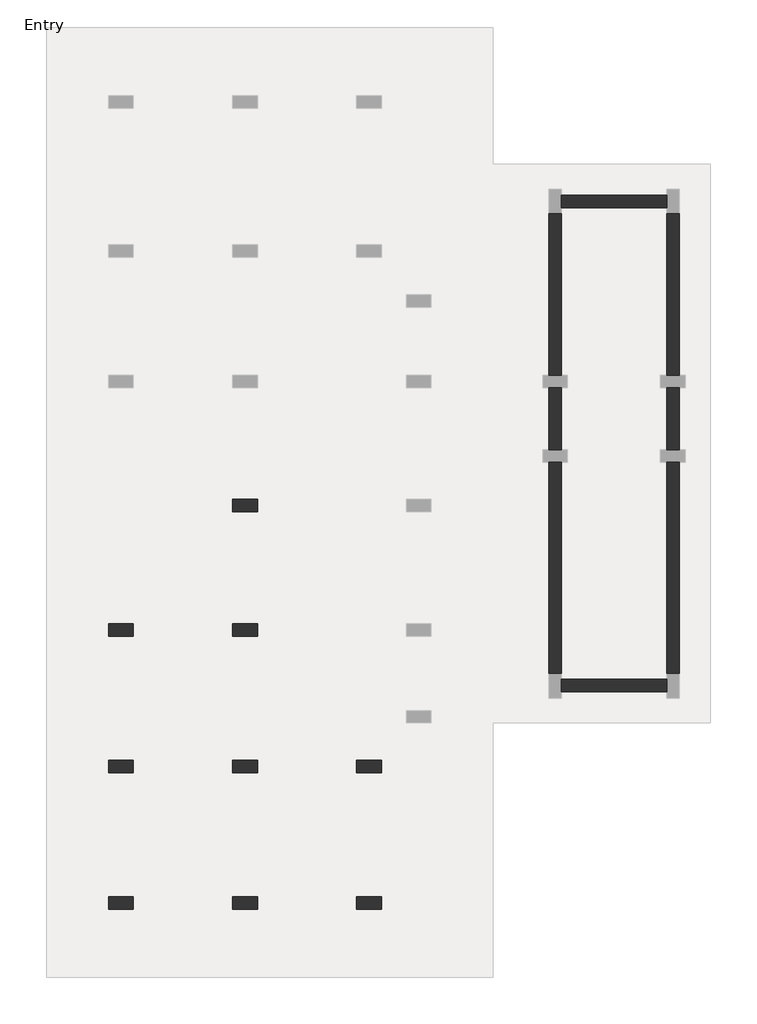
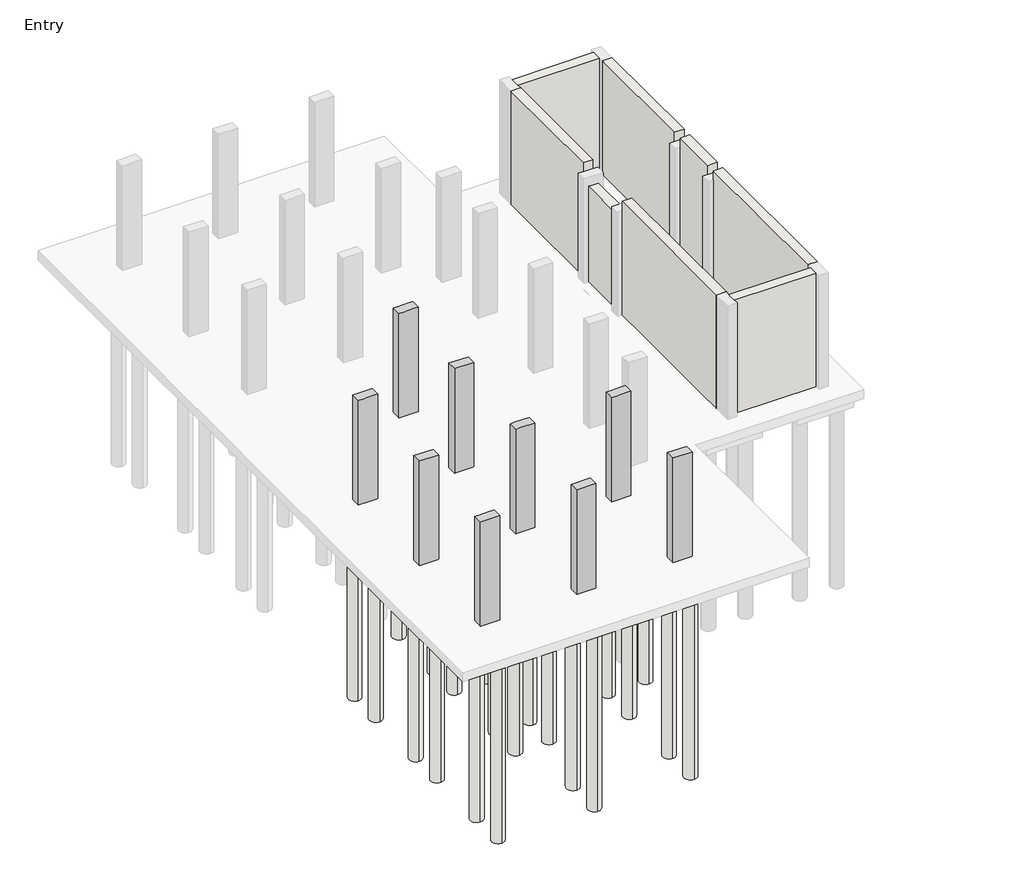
# One storey, part 1 of 3: 31 slabs, 9 columns, 8 walls.
"""IFC4 building model written with IfcOpenShell, lengths in millimetres."""

import ifcopenshell
import ifcopenshell.guid

model = None  # the IFC model being written
_history = None  # IfcOwnerHistory: only IFC2X3 demands one
_inside = {}  # id of a spatial element -> (the spatial element, [elements in it])
_under = {}  # id of a project, library or spatial element -> (it, [spatial elements below it])
_declared = {}  # id of a project -> (the project, [libraries it declares])
_typed = {}  # id of a type object -> (the type object, [elements of that type])
_made_of = {}  # id of a material, layer set ... -> (it, [elements and type objects made of it])


def new_model(schema):
    """Start an empty IFC model of exactly this schema.

    Asked for "IFC4X3", IfcOpenShell would pick the latest addendum, in which some entities
    have other attributes; the version numbers below select the first issue.
    IFC2X3 requires an IfcOwnerHistory on every rooted entity: one is made here for all.
    """
    global model, _history
    if schema == "IFC4X3":
        model = ifcopenshell.file(schema_version=(4, 3, 0, 0))
    else:
        model = ifcopenshell.file(schema=schema)
    _inside.clear()
    _under.clear()
    _declared.clear()
    _typed.clear()
    _made_of.clear()
    _history = None
    if model.schema == "IFC2X3":
        org = make("IfcOrganization", Name="unknown")
        user = make(
            "IfcPersonAndOrganization",
            ThePerson=make("IfcPerson", FamilyName="unknown"),
            TheOrganization=org,
        )
        app = make(
            "IfcApplication",
            ApplicationDeveloper=org,
            Version="unknown",
            ApplicationFullName="unknown",
            ApplicationIdentifier="unknown",
        )
        _history = make(
            "IfcOwnerHistory",
            OwningUser=user,
            OwningApplication=app,
            ChangeAction="ADDED",
            CreationDate=0,
        )
    return model


def make(cls, **values):
    """One entity of the class cls with the attributes given. An attribute that is None is left unset."""
    return model.create_entity(
        cls, **{name: value for name, value in values.items() if value is not None}
    )


def rooted(cls, **values):
    """An entity with a GlobalId (a new one), such as an element, a storey or a relation."""
    return make(cls, GlobalId=ifcopenshell.guid.new(), OwnerHistory=_history, **values)


def si_unit(unit_type, name, prefix=None):
    """IfcSIUnit, for example si_unit("LENGTHUNIT", "METRE", prefix="MILLI")."""
    return make("IfcSIUnit", UnitType=unit_type, Prefix=prefix, Name=name)


def assignment(units):
    """IfcUnitAssignment: the units of a project."""
    return None if units is None else make("IfcUnitAssignment", Units=units)


def point(xyz):
    """IfcCartesianPoint."""
    return None if xyz is None else make("IfcCartesianPoint", Coordinates=xyz)


def direction(xyz):
    """IfcDirection."""
    return None if xyz is None else make("IfcDirection", DirectionRatios=xyz)


def frame(location, z_axis=None, x_axis=None):
    """IfcAxis2Placement3D, a coordinate frame: its origin and axes. An axis left out is left unset."""
    return make(
        "IfcAxis2Placement3D",
        Location=point(location),
        Axis=direction(z_axis),
        RefDirection=direction(x_axis),
    )


def frame_2d(location, x_axis=None):
    """IfcAxis2Placement2D, a coordinate frame in the plane: its origin and x axis."""
    return make(
        "IfcAxis2Placement2D", Location=point(location), RefDirection=direction(x_axis)
    )


def origin():
    """The frame at (0, 0, 0) with its axes left unset."""
    return frame((0.0, 0.0, 0.0))


def origin_with_axes():
    """The frame at (0, 0, 0) with the z axis (0, 0, 1) and the x axis (1, 0, 0) written out."""
    return frame((0.0, 0.0, 0.0), z_axis=(0.0, 0.0, 1.0), x_axis=(1.0, 0.0, 0.0))


def place(relative_to, where):
    """IfcLocalPlacement: puts the frame where relative to a parent placement (None: the world)."""
    return make(
        "IfcLocalPlacement", PlacementRelTo=relative_to, RelativePlacement=where
    )


def context(
    kind, dimensions, precision=None, world=None, true_north=None, identifier=None
):
    """IfcGeometricRepresentationContext, for example the 3D "Model" context."""
    return make(
        "IfcGeometricRepresentationContext",
        ContextIdentifier=identifier,
        ContextType=kind,
        CoordinateSpaceDimension=dimensions,
        Precision=precision,
        WorldCoordinateSystem=world,
        TrueNorth=true_north,
    )


def project(units=None, contexts=None):
    """IfcProject with its units and contexts."""
    return rooted(
        "IfcProject",
        Name="project",
        RepresentationContexts=contexts,
        UnitsInContext=assignment(units),
    )


def spatial(cls, under=None, at=None, **own):
    """A site, building, storey or space (cls), placed at a placement, below another one or the project."""
    s = rooted(cls, ObjectPlacement=at, **own)
    if under is not None:
        _under.setdefault(under.id(), (under, []))[1].append(s)
    return s


def polyline(points):
    """IfcPolyline through the points."""
    return make("IfcPolyline", Points=[point(p) for p in points])


def circle_curve(where, radius):
    """IfcCircle in the frame where."""
    return make("IfcCircle", Position=where, Radius=radius)


def trimmed(basis, trim1, trim2, sense, master):
    """IfcTrimmedCurve: the piece of a basis curve between two trims."""
    return make(
        "IfcTrimmedCurve",
        BasisCurve=basis,
        Trim1=trim1,
        Trim2=trim2,
        SenseAgreement=sense,
        MasterRepresentation=master,
    )


def segment(curve, same_sense, transition):
    """IfcCompositeCurveSegment."""
    return make(
        "IfcCompositeCurveSegment",
        Transition=transition,
        SameSense=same_sense,
        ParentCurve=curve,
    )


def composite_curve(segments, self_intersect=None):
    """IfcCompositeCurve: segments joined end to end."""
    return make("IfcCompositeCurve", Segments=segments, SelfIntersect=self_intersect)


def outline(outer, holes=None, kind="AREA"):
    """IfcArbitraryClosedProfileDef: a profile drawn as a closed curve; with holes, ...WithVoids."""
    if holes is None:
        return make("IfcArbitraryClosedProfileDef", ProfileType=kind, OuterCurve=outer)
    return make(
        "IfcArbitraryProfileDefWithVoids",
        ProfileType=kind,
        OuterCurve=outer,
        InnerCurves=holes,
    )


def extrude(swept, where, along, depth):
    """IfcExtrudedAreaSolid: the profile swept, set in the frame where, extruded along a direction by depth."""
    return make(
        "IfcExtrudedAreaSolid",
        SweptArea=swept,
        Position=where,
        ExtrudedDirection=direction(along),
        Depth=depth,
    )


def faces_of(points, faces, orient=None, outer=None):
    """IfcFace entities. A face is a list of loops; a loop is a list of indices into points, from 0.

    orient and outer hold one flag for each loop. By default every Orientation is true, the
    first loop of a face is its IfcFaceOuterBound and the others are IfcFaceBound.
    """
    made = []
    for i, loops in enumerate(faces):
        bounds = []
        for j, loop in enumerate(loops):
            is_outer = j == 0 if outer is None else outer[i][j]
            bounds.append(
                make(
                    "IfcFaceOuterBound" if is_outer else "IfcFaceBound",
                    Bound=make("IfcPolyLoop", Polygon=[points[k] for k in loop]),
                    Orientation=True if orient is None else orient[i][j],
                )
            )
        made.append(make("IfcFace", Bounds=bounds))
    return made


def faceted_brep(points, faces, orient=None, outer=None, voids=None):
    """IfcFacetedBrep: a solid bounded by flat faces; with voids (closed shells), ...WithVoids."""
    shared = [point(p) for p in points]
    hull = make("IfcClosedShell", CfsFaces=faces_of(shared, faces, orient, outer))
    if voids is None:
        return make("IfcFacetedBrep", Outer=hull)
    return make(
        "IfcFacetedBrepWithVoids",
        Outer=hull,
        Voids=[
            make(cls, CfsFaces=faces_of(shared, fs, o, b)) for cls, fs, o, b in voids
        ],
    )


def shape(context_of_items, identifier, shape_type, items):
    """IfcShapeRepresentation: the items that make up one representation, for example the "Body"."""
    return make(
        "IfcShapeRepresentation",
        ContextOfItems=context_of_items,
        RepresentationIdentifier=identifier,
        RepresentationType=shape_type,
        Items=items,
    )


def made_of(thing, what):
    """Note that an element or type object is made of a material, layer set ...; save() writes the relation."""
    if what is not None:
        _made_of.setdefault(what.id(), (what, []))[1].append(thing)
    return thing


def element(
    cls,
    number,
    at=None,
    inside=None,
    cuts=None,
    type_object=None,
    material=None,
    context=None,
    identifier="Body",
    shape_type=None,
    held_by="IfcProductDefinitionShape",
    body=None,
    shapes=None,
    **own,
):
    """One element of the class cls, such as IfcWall. Its Tag is "e" and its number.

    at: its placement. inside: the storey or other place that contains it. cuts: it is an
    opening in that element (IfcRelVoidsElement). A single representation is given by context,
    identifier, shape_type and body (its items); several are given by shapes. held_by: the class
    of the entity that holds the representations. save() writes the other relations.
    """
    e = rooted(cls, Tag="e%d" % number, ObjectPlacement=at, **own)
    if body is not None:
        shapes = [shape(context, identifier, shape_type, body)]
    if shapes is not None:
        e.Representation = make(held_by, Representations=shapes)
    if inside is not None:
        _inside.setdefault(inside.id(), (inside, []))[1].append(e)
    if cuts is not None:
        rooted(
            "IfcRelVoidsElement", RelatingBuildingElement=cuts, RelatedOpeningElement=e
        )
    if type_object is not None:
        _typed.setdefault(type_object.id(), (type_object, []))[1].append(e)
    return made_of(e, material)


def aggregate(whole, parts):
    """IfcRelAggregates: a whole, such as a stair, and the parts it consists of."""
    return rooted("IfcRelAggregates", RelatingObject=whole, RelatedObjects=parts)


def save(model, path):
    """Write the relations noted so far, then the file.

    IfcRelAggregates (storeys below a building ...), IfcRelContainedInSpatialStructure (elements
    in a storey), IfcRelDefinesByType, IfcRelAssociatesMaterial and IfcRelDeclares: one each for
    every whole, place, type object, material and project.
    """
    for whole, parts in _under.values():
        aggregate(whole, parts)
    for where, things in _inside.values():
        rooted(
            "IfcRelContainedInSpatialStructure",
            RelatedElements=things,
            RelatingStructure=where,
        )
    for kind, things in _typed.values():
        rooted("IfcRelDefinesByType", RelatedObjects=things, RelatingType=kind)
    for what, things in _made_of.values():
        rooted("IfcRelAssociatesMaterial", RelatedObjects=things, RelatingMaterial=what)
    for by, libraries in _declared.values():
        rooted("IfcRelDeclares", RelatingContext=by, RelatedDefinitions=libraries)
    model.write(path)


model = new_model("IFC4")

# Units and contexts
model_context = context("Model", 3, world=origin())
ifc_project = project(units=[si_unit("LENGTHUNIT", "METRE", prefix="MILLI")], contexts=[model_context])

# Site, building, storey
site = spatial("IfcSite", under=ifc_project)
building = spatial("IfcBuilding", under=site)
storey = spatial("IfcBuildingStorey", under=building, Name="Entry", Elevation=0.0)

# Columns
placement = place(None, origin())
element("IfcColumn", 1, ObjectType="Concrete-Rectangular-Column : 12 x 24", at=placement, inside=storey, context=model_context, shape_type="Brep", body=[
    faceted_brep([(-10423.1073204, 13863.0572372, 0.0), (-9813.5073204, 13863.0572372, 0.0), (-9813.5073204, 13558.2572372, 0.0), (-10423.1073204, 13558.2572372, 0.0), (-10423.1073204, 13863.0572372, 3505.2), (-10270.7073204, 13863.0572372, 3505.2), (-9965.9073204, 13863.0572372, 3505.2), (-9813.5073204, 13863.0572372, 3505.2), (-9813.5073204, 13863.0572372, 2895.6), (-9813.5073204, 13558.2572372, 3505.2), (-9813.5073204, 13558.2572372, 2895.6), (-9965.9073204, 13558.2572372, 3505.2), (-10270.7073204, 13558.2572372, 3505.2), (-10423.1073204, 13558.2572372, 3505.2)], [[[0, 1, 2, 3]], [[4, 5, 6, 7, 8, 1, 0]], [[7, 9, 10, 2, 1, 8]], [[9, 11, 12, 13, 3, 2, 10]], [[13, 4, 0, 3]], [[4, 13, 12, 11, 9, 7, 6, 5]]]),
])
element("IfcColumn", 2, ObjectType="Concrete-Rectangular-Column : 12 x 24", at=placement, inside=storey, context=model_context, shape_type="Brep", body=[
    faceted_brep([(-13471.1073204, 10815.0572372, 0.0), (-12861.5073204, 10815.0572372, 0.0), (-12861.5073204, 10510.2572372, 0.0), (-13471.1073204, 10510.2572372, 0.0), (-13471.1073204, 10815.0572372, 3505.2), (-12861.5073204, 10815.0572372, 3505.2), (-12861.5073204, 10815.0572372, 2895.6), (-12861.5073204, 10510.2572372, 3505.2), (-12861.5073204, 10510.2572372, 2895.6), (-13013.9073204, 10510.2572372, 3505.2), (-13318.7073204, 10510.2572372, 3505.2), (-13471.1073204, 10510.2572372, 3505.2)], [[[0, 1, 2, 3]], [[4, 5, 6, 1, 0]], [[5, 7, 8, 2, 1, 6]], [[7, 9, 10, 11, 3, 2, 8]], [[11, 4, 0, 3]], [[4, 11, 10, 9, 7, 5]]]),
])
element("IfcColumn", 3, ObjectType="Concrete-Rectangular-Column : 12 x 24", at=placement, inside=storey, context=model_context, shape_type="Brep", body=[
    faceted_brep([(-10423.1073204, 10815.0572372, 0.0), (-9813.5073204, 10815.0572372, 0.0), (-9813.5073204, 10510.2572372, 0.0), (-10423.1073204, 10510.2572372, 0.0), (-10423.1073204, 10815.0572372, 3505.2), (-10270.7073204, 10815.0572372, 3505.2), (-9965.9073204, 10815.0572372, 3505.2), (-9813.5073204, 10815.0572372, 3505.2), (-9813.5073204, 10815.0572372, 2895.6), (-10423.1073204, 10815.0572372, 2895.6), (-9813.5073204, 10510.2572372, 3505.2), (-9813.5073204, 10510.2572372, 2895.6), (-9965.9073204, 10510.2572372, 3505.2), (-10270.7073204, 10510.2572372, 3505.2), (-10423.1073204, 10510.2572372, 3505.2), (-10423.1073204, 10510.2572372, 2895.6)], [[[0, 1, 2, 3]], [[4, 5, 6, 7, 8, 1, 0, 9]], [[7, 10, 11, 2, 1, 8]], [[10, 12, 13, 14, 15, 3, 2, 11]], [[14, 4, 9, 0, 3, 15]], [[4, 14, 13, 12, 10, 7, 6, 5]]]),
])
element("IfcColumn", 4, ObjectType="Concrete-Rectangular-Column : 12 x 24", at=placement, inside=storey, context=model_context, shape_type="Brep", body=[
    faceted_brep([(-7375.8500241, 7462.2572372, 0.0), (-6766.2500241, 7462.2572372, 0.0), (-6766.2500241, 7157.4572372, 0.0), (-7375.8500241, 7157.4572372, 0.0), (-7375.8500241, 7462.2572372, 3505.2), (-7223.4500241, 7462.2572372, 3505.2), (-6918.6500241, 7462.2572372, 3505.2), (-6766.2500241, 7462.2572372, 3505.2), (-7375.8500241, 7462.2572372, 2895.6), (-6766.2500241, 7157.4572372, 3505.2), (-6918.6500241, 7157.4572372, 3505.2), (-7223.4500241, 7157.4572372, 3505.2), (-7375.8500241, 7157.4572372, 3505.2), (-7375.8500241, 7157.4572372, 2895.6)], [[[0, 1, 2, 3]], [[4, 5, 6, 7, 1, 0, 8]], [[7, 9, 2, 1]], [[9, 10, 11, 12, 13, 3, 2]], [[12, 4, 8, 0, 3, 13]], [[4, 12, 11, 10, 9, 7, 6, 5]]]),
])
element("IfcColumn", 5, ObjectType="Concrete-Rectangular-Column : 12 x 24", at=placement, inside=storey, context=model_context, shape_type="Brep", body=[
    faceted_brep([(-10423.1073204, 7462.2572372, 0.0), (-9813.5073204, 7462.2572372, 0.0), (-9813.5073204, 7157.4572372, 0.0), (-10423.1073204, 7157.4572372, 0.0), (-10423.1073204, 7462.2572372, 3505.2), (-10270.7073204, 7462.2572372, 3505.2), (-9965.9073204, 7462.2572372, 3505.2), (-9813.5073204, 7462.2572372, 3505.2), (-9813.5073204, 7462.2572372, 2895.6), (-10423.1073204, 7462.2572372, 2895.6), (-9813.5073204, 7157.4572372, 3505.2), (-9813.5073204, 7157.4572372, 2895.6), (-9965.9073204, 7157.4572372, 3505.2), (-10270.7073204, 7157.4572372, 3505.2), (-10423.1073204, 7157.4572372, 3505.2), (-10423.1073204, 7157.4572372, 2895.6)], [[[0, 1, 2, 3]], [[4, 5, 6, 7, 8, 1, 0, 9]], [[7, 10, 11, 2, 1, 8]], [[10, 12, 13, 14, 15, 3, 2, 11]], [[14, 4, 9, 0, 3, 15]], [[4, 14, 13, 12, 10, 7, 6, 5]]]),
])
element("IfcColumn", 6, ObjectType="Concrete-Rectangular-Column : 12 x 24", at=placement, inside=storey, context=model_context, shape_type="Brep", body=[
    faceted_brep([(-13471.1073204, 7462.2572372, 0.0), (-12861.5073204, 7462.2572372, 0.0), (-12861.5073204, 7157.4572372, 0.0), (-13471.1073204, 7157.4572372, 0.0), (-13471.1073204, 7462.2572372, 3505.2), (-13318.7073204, 7462.2572372, 3505.2), (-13013.9073204, 7462.2572372, 3505.2), (-12861.5073204, 7462.2572372, 3505.2), (-12861.5073204, 7462.2572372, 2895.6), (-12861.5073204, 7157.4572372, 3505.2), (-12861.5073204, 7157.4572372, 2895.6), (-13013.9073204, 7157.4572372, 3505.2), (-13318.7073204, 7157.4572372, 3505.2), (-13471.1073204, 7157.4572372, 3505.2)], [[[0, 1, 2, 3]], [[4, 5, 6, 7, 8, 1, 0]], [[7, 9, 10, 2, 1, 8]], [[9, 11, 12, 13, 3, 2, 10]], [[13, 4, 0, 3]], [[4, 13, 12, 11, 9, 7, 6, 5]]]),
])
element("IfcColumn", 7, ObjectType="Concrete-Rectangular-Column : 12 x 24", at=placement, inside=storey, context=model_context, shape_type="Brep", body=[
    faceted_brep([(-13471.1073204, 4109.4572372, 0.0), (-12861.5073204, 4109.4572372, 0.0), (-12861.5073204, 3804.6572372, 0.0), (-13471.1073204, 3804.6572372, 0.0), (-13471.1073204, 4109.4572372, 3505.2), (-13318.7073204, 4109.4572372, 3505.2), (-13013.9073204, 4109.4572372, 3505.2), (-12861.5073204, 4109.4572372, 3505.2), (-12861.5073204, 4109.4572372, 2895.6), (-12861.5073204, 3804.6572372, 3505.2), (-12861.5073204, 3804.6572372, 2895.6), (-13471.1073204, 3804.6572372, 3505.2)], [[[0, 1, 2, 3]], [[4, 5, 6, 7, 8, 1, 0]], [[7, 9, 10, 2, 1, 8]], [[9, 11, 3, 2, 10]], [[11, 4, 0, 3]], [[4, 11, 9, 7, 6, 5]]]),
])
element("IfcColumn", 8, ObjectType="Concrete-Rectangular-Column : 12 x 24", at=placement, inside=storey, context=model_context, shape_type="Brep", body=[
    faceted_brep([(-10423.1073204, 4109.4572372, 0.0), (-9813.5073204, 4109.4572372, 0.0), (-9813.5073204, 3804.6572372, 0.0), (-10423.1073204, 3804.6572372, 0.0), (-10423.1073204, 4109.4572372, 3505.2), (-10270.7073204, 4109.4572372, 3505.2), (-9965.9073204, 4109.4572372, 3505.2), (-9813.5073204, 4109.4572372, 3505.2), (-9813.5073204, 4109.4572372, 2895.6), (-10423.1073204, 4109.4572372, 2895.6), (-9813.5073204, 3804.6572372, 3505.2), (-9813.5073204, 3804.6572372, 2895.6), (-10423.1073204, 3804.6572372, 3505.2), (-10423.1073204, 3804.6572372, 2895.6)], [[[0, 1, 2, 3]], [[4, 5, 6, 7, 8, 1, 0, 9]], [[7, 10, 11, 2, 1, 8]], [[10, 12, 13, 3, 2, 11]], [[12, 4, 9, 0, 3, 13]], [[4, 12, 10, 7, 6, 5]]]),
])
element("IfcColumn", 9, ObjectType="Concrete-Rectangular-Column : 12 x 24", at=placement, inside=storey, context=model_context, shape_type="Brep", body=[
    faceted_brep([(-7375.1073204, 4109.4572372, 0.0), (-6765.5073204, 4109.4572372, 0.0), (-6765.5073204, 3804.6572372, 0.0), (-7375.1073204, 3804.6572372, 0.0), (-7375.1073204, 4109.4572372, 3505.2), (-7223.4500241, 4109.4572372, 3505.2), (-6918.6500241, 4109.4572372, 3505.2), (-6765.5073204, 4109.4572372, 3505.2), (-7375.1073204, 4109.4572372, 2895.6), (-6765.5073204, 3804.6572372, 3505.2), (-7375.1073204, 3804.6572372, 3505.2), (-7375.1073204, 3804.6572372, 2895.6)], [[[0, 1, 2, 3]], [[4, 5, 6, 7, 1, 0, 8]], [[7, 9, 2, 1]], [[9, 10, 11, 3, 2]], [[10, 4, 8, 0, 3, 11]], [[4, 10, 9, 7, 6, 5]]]),
])

# Slabs
element("IfcSlab", 10, ObjectType="Pile Cap-2 Pile : 31\"x61\"x35\"", at=placement, inside=storey, context=model_context, shape_type="SweptSolid", body=[
    extrude(outline(polyline([(-13572.7073204, 11551.6572372), (-12759.9073204, 11551.6572372), (-12759.9073204, 9773.6572372), (-13572.7073204, 9773.6572372), (-13572.7073204, 11551.6572372)])), frame((0.0, 0.0, -889.0), z_axis=(0.0, 0.0, 1.0), x_axis=(1.0, 0.0, 0.0)), (0.0, 0.0, 1.0), 584.2),
])
element("IfcSlab", 11, ObjectType="Pile Cap-2 Pile : 31\"x61\"x35\"", at=placement, inside=storey, context=model_context, shape_type="SweptSolid", body=[
    extrude(outline(polyline([(-13572.7073204, 8198.8572372), (-12759.9073204, 8198.8572372), (-12759.9073204, 6420.8572372), (-13572.7073204, 6420.8572372), (-13572.7073204, 8198.8572372)])), frame((0.0, 0.0, -889.0), z_axis=(0.0, 0.0, 1.0), x_axis=(1.0, 0.0, 0.0)), (0.0, 0.0, 1.0), 584.2),
])
element("IfcSlab", 12, ObjectType="Pile Cap-2 Pile : 31\"x61\"x35\"", at=placement, inside=storey, context=model_context, shape_type="SweptSolid", body=[
    extrude(outline(polyline([(-13572.7073204, 4846.0572372), (-12759.9073204, 4846.0572372), (-12759.9073204, 3068.0572372), (-13572.7073204, 3068.0572372), (-13572.7073204, 4846.0572372)])), frame((0.0, 0.0, -889.0), z_axis=(0.0, 0.0, 1.0), x_axis=(1.0, 0.0, 0.0)), (0.0, 0.0, 1.0), 584.2),
])
element("IfcSlab", 13, ObjectType="Pile Cap-2 Pile : 31\"x61\"x35\"", at=placement, inside=storey, context=model_context, shape_type="SweptSolid", body=[
    extrude(outline(polyline([(-10524.7073204, 4846.0572372), (-9711.9073204, 4846.0572372), (-9711.9073204, 3068.0572372), (-10524.7073204, 3068.0572372), (-10524.7073204, 4846.0572372)])), frame((0.0, 0.0, -889.0), z_axis=(0.0, 0.0, 1.0), x_axis=(1.0, 0.0, 0.0)), (0.0, 0.0, 1.0), 584.2),
])
element("IfcSlab", 14, ObjectType="Pile Cap-2 Pile : 31\"x61\"x35\"", at=placement, inside=storey, context=model_context, shape_type="SweptSolid", body=[
    extrude(outline(polyline([(-7476.7073204, 4846.0572372), (-6663.9073204, 4846.0572372), (-6663.9073204, 3068.0572372), (-7476.7073204, 3068.0572372), (-7476.7073204, 4846.0572372)])), frame((0.0, 0.0, -889.0), z_axis=(0.0, 0.0, 1.0), x_axis=(1.0, 0.0, 0.0)), (0.0, 0.0, 1.0), 584.2),
])
element("IfcSlab", 15, ObjectType="Pile Cap-2 Pile : 31\"x61\"x35\"", at=placement, inside=storey, context=model_context, shape_type="SweptSolid", body=[
    extrude(outline(polyline([(-7477.4500241, 8198.8572372), (-6664.6500241, 8198.8572372), (-6664.6500241, 6420.8572372), (-7477.4500241, 6420.8572372), (-7477.4500241, 8198.8572372)])), frame((0.0, 0.0, -889.0), z_axis=(0.0, 0.0, 1.0), x_axis=(1.0, 0.0, 0.0)), (0.0, 0.0, 1.0), 584.2),
])
element("IfcSlab", 16, ObjectType="Pile Cap-4 Pile : 72\"x72\"x35\"", at=placement, inside=storey, context=model_context, shape_type="SweptSolid", body=[
    extrude(outline(polyline([(-11032.7073204, 14625.0572372), (-9203.9073204, 14625.0572372), (-9203.9073204, 12796.2572372), (-11032.7073204, 12796.2572372), (-11032.7073204, 14625.0572372)])), frame((0.0, 0.0, -889.0), z_axis=(0.0, 0.0, 1.0), x_axis=(1.0, 0.0, 0.0)), (0.0, 0.0, 1.0), 584.2),
])
element("IfcSlab", 17, ObjectType="Pile Cap-4 Pile : 72\"x72\"x35\"", at=placement, inside=storey, context=model_context, shape_type="SweptSolid", body=[
    extrude(outline(polyline([(-11032.7073204, 11577.0572372), (-9203.9073204, 11577.0572372), (-9203.9073204, 9748.2572372), (-11032.7073204, 9748.2572372), (-11032.7073204, 11577.0572372)])), frame((0.0, 0.0, -889.0), z_axis=(0.0, 0.0, 1.0), x_axis=(1.0, 0.0, 0.0)), (0.0, 0.0, 1.0), 584.2),
])
element("IfcSlab", 18, ObjectType="Pile Cap-4 Pile : 72\"x72\"x35\"", at=placement, inside=storey, context=model_context, shape_type="SweptSolid", body=[
    extrude(outline(polyline([(-11032.7073204, 8224.2572372), (-9203.9073204, 8224.2572372), (-9203.9073204, 6395.4572372), (-11032.7073204, 6395.4572372), (-11032.7073204, 8224.2572372)])), frame((0.0, 0.0, -889.0), z_axis=(0.0, 0.0, 1.0), x_axis=(1.0, 0.0, 0.0)), (0.0, 0.0, 1.0), 584.2),
])
element("IfcSlab", 19, ObjectType="Pile-Steel Pipe : 16\" Diameter", at=placement, inside=storey, context=model_context, shape_type="SweptSolid", body=[
    extrude(outline(composite_curve([segment(trimmed(circle_curve(frame_2d((-10651.7073204, 13177.2572372)), 203.2), [point((-10651.7073204, 12974.0572372))], [point((-10651.7073204, 13380.4572372))], False, "CARTESIAN"), True, "CONTINUOUS"), segment(trimmed(circle_curve(frame_2d((-10651.7073204, 13177.2572372)), 203.2), [point((-10651.7073204, 13380.4572372))], [point((-10651.7073204, 12974.0572372))], False, "CARTESIAN"), True, "CONTINUOUS")], self_intersect=False)), frame((0.0, 0.0, -6985.0), z_axis=(0.0, 0.0, 1.0), x_axis=(1.0, 0.0, 0.0)), (0.0, 0.0, 1.0), 6096.0),
])
element("IfcSlab", 20, ObjectType="Pile-Steel Pipe : 16\" Diameter", at=placement, inside=storey, context=model_context, shape_type="SweptSolid", body=[
    extrude(outline(composite_curve([segment(trimmed(circle_curve(frame_2d((-10651.7073204, 10129.2572372)), 203.2), [point((-10651.7073204, 9926.0572372))], [point((-10651.7073204, 10332.4572372))], False, "CARTESIAN"), True, "CONTINUOUS"), segment(trimmed(circle_curve(frame_2d((-10651.7073204, 10129.2572372)), 203.2), [point((-10651.7073204, 10332.4572372))], [point((-10651.7073204, 9926.0572372))], False, "CARTESIAN"), True, "CONTINUOUS")], self_intersect=False)), frame((0.0, 0.0, -6985.0), z_axis=(0.0, 0.0, 1.0), x_axis=(1.0, 0.0, 0.0)), (0.0, 0.0, 1.0), 6096.0),
])
element("IfcSlab", 21, ObjectType="Pile-Steel Pipe : 16\" Diameter", at=placement, inside=storey, context=model_context, shape_type="SweptSolid", body=[
    extrude(outline(composite_curve([segment(trimmed(circle_curve(frame_2d((-9584.9073204, 10129.2572372)), 203.2), [point((-9584.9073204, 9926.0572372))], [point((-9584.9073204, 10332.4572372))], False, "CARTESIAN"), True, "CONTINUOUS"), segment(trimmed(circle_curve(frame_2d((-9584.9073204, 10129.2572372)), 203.2), [point((-9584.9073204, 10332.4572372))], [point((-9584.9073204, 9926.0572372))], False, "CARTESIAN"), True, "CONTINUOUS")], self_intersect=False)), frame((0.0, 0.0, -6985.0), z_axis=(0.0, 0.0, 1.0), x_axis=(1.0, 0.0, 0.0)), (0.0, 0.0, 1.0), 6096.0),
])
element("IfcSlab", 22, ObjectType="Pile-Steel Pipe : 16\" Diameter", at=placement, inside=storey, context=model_context, shape_type="SweptSolid", body=[
    extrude(outline(composite_curve([segment(trimmed(circle_curve(frame_2d((-9584.9073204, 11196.0572372)), 203.2), [point((-9584.9073204, 10992.8572372))], [point((-9584.9073204, 11399.2572372))], False, "CARTESIAN"), True, "CONTINUOUS"), segment(trimmed(circle_curve(frame_2d((-9584.9073204, 11196.0572372)), 203.2), [point((-9584.9073204, 11399.2572372))], [point((-9584.9073204, 10992.8572372))], False, "CARTESIAN"), True, "CONTINUOUS")], self_intersect=False)), frame((0.0, 0.0, -6985.0), z_axis=(0.0, 0.0, 1.0), x_axis=(1.0, 0.0, 0.0)), (0.0, 0.0, 1.0), 6096.0),
])
element("IfcSlab", 23, ObjectType="Pile-Steel Pipe : 16\" Diameter", at=placement, inside=storey, context=model_context, shape_type="SweptSolid", body=[
    extrude(outline(composite_curve([segment(trimmed(circle_curve(frame_2d((-10651.7073204, 11196.0572372)), 203.2), [point((-10651.7073204, 10992.8572372))], [point((-10651.7073204, 11399.2572372))], False, "CARTESIAN"), True, "CONTINUOUS"), segment(trimmed(circle_curve(frame_2d((-10651.7073204, 11196.0572372)), 203.2), [point((-10651.7073204, 11399.2572372))], [point((-10651.7073204, 10992.8572372))], False, "CARTESIAN"), True, "CONTINUOUS")], self_intersect=False)), frame((0.0, 0.0, -6985.0), z_axis=(0.0, 0.0, 1.0), x_axis=(1.0, 0.0, 0.0)), (0.0, 0.0, 1.0), 6096.0),
])
element("IfcSlab", 24, ObjectType="Pile-Steel Pipe : 16\" Diameter", at=placement, inside=storey, context=model_context, shape_type="SweptSolid", body=[
    extrude(outline(composite_curve([segment(trimmed(circle_curve(frame_2d((-10651.7073204, 6776.4572372)), 203.2), [point((-10651.7073204, 6573.2572372))], [point((-10651.7073204, 6979.6572372))], False, "CARTESIAN"), True, "CONTINUOUS"), segment(trimmed(circle_curve(frame_2d((-10651.7073204, 6776.4572372)), 203.2), [point((-10651.7073204, 6979.6572372))], [point((-10651.7073204, 6573.2572372))], False, "CARTESIAN"), True, "CONTINUOUS")], self_intersect=False)), frame((0.0, 0.0, -6985.0), z_axis=(0.0, 0.0, 1.0), x_axis=(1.0, 0.0, 0.0)), (0.0, 0.0, 1.0), 6096.0),
])
element("IfcSlab", 25, ObjectType="Pile-Steel Pipe : 16\" Diameter", at=placement, inside=storey, context=model_context, shape_type="SweptSolid", body=[
    extrude(outline(composite_curve([segment(trimmed(circle_curve(frame_2d((-9584.9073204, 6776.4572372)), 203.2), [point((-9584.9073204, 6573.2572372))], [point((-9584.9073204, 6979.6572372))], False, "CARTESIAN"), True, "CONTINUOUS"), segment(trimmed(circle_curve(frame_2d((-9584.9073204, 6776.4572372)), 203.2), [point((-9584.9073204, 6979.6572372))], [point((-9584.9073204, 6573.2572372))], False, "CARTESIAN"), True, "CONTINUOUS")], self_intersect=False)), frame((0.0, 0.0, -6985.0), z_axis=(0.0, 0.0, 1.0), x_axis=(1.0, 0.0, 0.0)), (0.0, 0.0, 1.0), 6096.0),
])
element("IfcSlab", 26, ObjectType="Pile-Steel Pipe : 16\" Diameter", at=placement, inside=storey, context=model_context, shape_type="SweptSolid", body=[
    extrude(outline(composite_curve([segment(trimmed(circle_curve(frame_2d((-9584.9073204, 7843.2572372)), 203.2), [point((-9584.9073204, 7640.0572372))], [point((-9584.9073204, 8046.4572372))], False, "CARTESIAN"), True, "CONTINUOUS"), segment(trimmed(circle_curve(frame_2d((-9584.9073204, 7843.2572372)), 203.2), [point((-9584.9073204, 8046.4572372))], [point((-9584.9073204, 7640.0572372))], False, "CARTESIAN"), True, "CONTINUOUS")], self_intersect=False)), frame((0.0, 0.0, -6985.0), z_axis=(0.0, 0.0, 1.0), x_axis=(1.0, 0.0, 0.0)), (0.0, 0.0, 1.0), 6096.0),
])
element("IfcSlab", 27, ObjectType="Pile-Steel Pipe : 16\" Diameter", at=placement, inside=storey, context=model_context, shape_type="SweptSolid", body=[
    extrude(outline(composite_curve([segment(trimmed(circle_curve(frame_2d((-10651.7073204, 7843.2572372)), 203.2), [point((-10651.7073204, 7640.0572372))], [point((-10651.7073204, 8046.4572372))], False, "CARTESIAN"), True, "CONTINUOUS"), segment(trimmed(circle_curve(frame_2d((-10651.7073204, 7843.2572372)), 203.2), [point((-10651.7073204, 8046.4572372))], [point((-10651.7073204, 7640.0572372))], False, "CARTESIAN"), True, "CONTINUOUS")], self_intersect=False)), frame((0.0, 0.0, -6985.0), z_axis=(0.0, 0.0, 1.0), x_axis=(1.0, 0.0, 0.0)), (0.0, 0.0, 1.0), 6096.0),
])
element("IfcSlab", 28, ObjectType="Pile-Steel Pipe : 16\" Diameter", at=placement, inside=storey, context=model_context, shape_type="SweptSolid", body=[
    extrude(outline(composite_curve([segment(trimmed(circle_curve(frame_2d((-13166.3073204, 10078.4572372)), 203.2), [point((-13166.3073204, 9875.2572372))], [point((-13166.3073204, 10281.6572372))], False, "CARTESIAN"), True, "CONTINUOUS"), segment(trimmed(circle_curve(frame_2d((-13166.3073204, 10078.4572372)), 203.2), [point((-13166.3073204, 10281.6572372))], [point((-13166.3073204, 9875.2572372))], False, "CARTESIAN"), True, "CONTINUOUS")], self_intersect=False)), frame((0.0, 0.0, -6985.0), z_axis=(0.0, 0.0, 1.0), x_axis=(1.0, 0.0, 0.0)), (0.0, 0.0, 1.0), 6096.0),
])
element("IfcSlab", 29, ObjectType="Pile-Steel Pipe : 16\" Diameter", at=placement, inside=storey, context=model_context, shape_type="SweptSolid", body=[
    extrude(outline(composite_curve([segment(trimmed(circle_curve(frame_2d((-13166.3073204, 11246.8572372)), 203.2), [point((-13166.3073204, 11043.6572372))], [point((-13166.3073204, 11450.0572372))], False, "CARTESIAN"), True, "CONTINUOUS"), segment(trimmed(circle_curve(frame_2d((-13166.3073204, 11246.8572372)), 203.2), [point((-13166.3073204, 11450.0572372))], [point((-13166.3073204, 11043.6572372))], False, "CARTESIAN"), True, "CONTINUOUS")], self_intersect=False)), frame((0.0, 0.0, -6985.0), z_axis=(0.0, 0.0, 1.0), x_axis=(1.0, 0.0, 0.0)), (0.0, 0.0, 1.0), 6096.0),
])
element("IfcSlab", 30, ObjectType="Pile-Steel Pipe : 16\" Diameter", at=placement, inside=storey, context=model_context, shape_type="SweptSolid", body=[
    extrude(outline(composite_curve([segment(trimmed(circle_curve(frame_2d((-13166.3073204, 6725.6572372)), 203.2), [point((-13166.3073204, 6522.4572372))], [point((-13166.3073204, 6928.8572372))], False, "CARTESIAN"), True, "CONTINUOUS"), segment(trimmed(circle_curve(frame_2d((-13166.3073204, 6725.6572372)), 203.2), [point((-13166.3073204, 6928.8572372))], [point((-13166.3073204, 6522.4572372))], False, "CARTESIAN"), True, "CONTINUOUS")], self_intersect=False)), frame((0.0, 0.0, -6985.0), z_axis=(0.0, 0.0, 1.0), x_axis=(1.0, 0.0, 0.0)), (0.0, 0.0, 1.0), 6096.0),
])
element("IfcSlab", 31, ObjectType="Pile-Steel Pipe : 16\" Diameter", at=placement, inside=storey, context=model_context, shape_type="SweptSolid", body=[
    extrude(outline(composite_curve([segment(trimmed(circle_curve(frame_2d((-13166.3073204, 7894.0572372)), 203.2), [point((-13166.3073204, 7690.8572372))], [point((-13166.3073204, 8097.2572372))], False, "CARTESIAN"), True, "CONTINUOUS"), segment(trimmed(circle_curve(frame_2d((-13166.3073204, 7894.0572372)), 203.2), [point((-13166.3073204, 8097.2572372))], [point((-13166.3073204, 7690.8572372))], False, "CARTESIAN"), True, "CONTINUOUS")], self_intersect=False)), frame((0.0, 0.0, -6985.0), z_axis=(0.0, 0.0, 1.0), x_axis=(1.0, 0.0, 0.0)), (0.0, 0.0, 1.0), 6096.0),
])
element("IfcSlab", 32, ObjectType="Pile-Steel Pipe : 16\" Diameter", at=placement, inside=storey, context=model_context, shape_type="SweptSolid", body=[
    extrude(outline(composite_curve([segment(trimmed(circle_curve(frame_2d((-13166.3073204, 3372.8572372)), 203.2), [point((-13166.3073204, 3169.6572372))], [point((-13166.3073204, 3576.0572372))], False, "CARTESIAN"), True, "CONTINUOUS"), segment(trimmed(circle_curve(frame_2d((-13166.3073204, 3372.8572372)), 203.2), [point((-13166.3073204, 3576.0572372))], [point((-13166.3073204, 3169.6572372))], False, "CARTESIAN"), True, "CONTINUOUS")], self_intersect=False)), frame((0.0, 0.0, -6985.0), z_axis=(0.0, 0.0, 1.0), x_axis=(1.0, 0.0, 0.0)), (0.0, 0.0, 1.0), 6096.0),
])
element("IfcSlab", 33, ObjectType="Pile-Steel Pipe : 16\" Diameter", at=placement, inside=storey, context=model_context, shape_type="SweptSolid", body=[
    extrude(outline(composite_curve([segment(trimmed(circle_curve(frame_2d((-13166.3073204, 4541.2572372)), 203.2), [point((-13166.3073204, 4338.0572372))], [point((-13166.3073204, 4744.4572372))], False, "CARTESIAN"), True, "CONTINUOUS"), segment(trimmed(circle_curve(frame_2d((-13166.3073204, 4541.2572372)), 203.2), [point((-13166.3073204, 4744.4572372))], [point((-13166.3073204, 4338.0572372))], False, "CARTESIAN"), True, "CONTINUOUS")], self_intersect=False)), frame((0.0, 0.0, -6985.0), z_axis=(0.0, 0.0, 1.0), x_axis=(1.0, 0.0, 0.0)), (0.0, 0.0, 1.0), 6096.0),
])
element("IfcSlab", 34, ObjectType="Pile-Steel Pipe : 16\" Diameter", at=placement, inside=storey, context=model_context, shape_type="SweptSolid", body=[
    extrude(outline(composite_curve([segment(trimmed(circle_curve(frame_2d((-10118.3073204, 3372.8572372)), 203.2), [point((-10118.3073204, 3169.6572372))], [point((-10118.3073204, 3576.0572372))], False, "CARTESIAN"), True, "CONTINUOUS"), segment(trimmed(circle_curve(frame_2d((-10118.3073204, 3372.8572372)), 203.2), [point((-10118.3073204, 3576.0572372))], [point((-10118.3073204, 3169.6572372))], False, "CARTESIAN"), True, "CONTINUOUS")], self_intersect=False)), frame((0.0, 0.0, -6985.0), z_axis=(0.0, 0.0, 1.0), x_axis=(1.0, 0.0, 0.0)), (0.0, 0.0, 1.0), 6096.0),
])
element("IfcSlab", 35, ObjectType="Pile-Steel Pipe : 16\" Diameter", at=placement, inside=storey, context=model_context, shape_type="SweptSolid", body=[
    extrude(outline(composite_curve([segment(trimmed(circle_curve(frame_2d((-10118.3073204, 4541.2572372)), 203.2), [point((-10118.3073204, 4338.0572372))], [point((-10118.3073204, 4744.4572372))], False, "CARTESIAN"), True, "CONTINUOUS"), segment(trimmed(circle_curve(frame_2d((-10118.3073204, 4541.2572372)), 203.2), [point((-10118.3073204, 4744.4572372))], [point((-10118.3073204, 4338.0572372))], False, "CARTESIAN"), True, "CONTINUOUS")], self_intersect=False)), frame((0.0, 0.0, -6985.0), z_axis=(0.0, 0.0, 1.0), x_axis=(1.0, 0.0, 0.0)), (0.0, 0.0, 1.0), 6096.0),
])
element("IfcSlab", 36, ObjectType="Pile-Steel Pipe : 16\" Diameter", at=placement, inside=storey, context=model_context, shape_type="SweptSolid", body=[
    extrude(outline(composite_curve([segment(trimmed(circle_curve(frame_2d((-7070.3073204, 3372.8572372)), 203.2), [point((-7070.3073204, 3169.6572372))], [point((-7070.3073204, 3576.0572372))], False, "CARTESIAN"), True, "CONTINUOUS"), segment(trimmed(circle_curve(frame_2d((-7070.3073204, 3372.8572372)), 203.2), [point((-7070.3073204, 3576.0572372))], [point((-7070.3073204, 3169.6572372))], False, "CARTESIAN"), True, "CONTINUOUS")], self_intersect=False)), frame((0.0, 0.0, -6985.0), z_axis=(0.0, 0.0, 1.0), x_axis=(1.0, 0.0, 0.0)), (0.0, 0.0, 1.0), 6096.0),
])
element("IfcSlab", 37, ObjectType="Pile-Steel Pipe : 16\" Diameter", at=placement, inside=storey, context=model_context, shape_type="SweptSolid", body=[
    extrude(outline(composite_curve([segment(trimmed(circle_curve(frame_2d((-7070.3073204, 4541.2572372)), 203.2), [point((-7070.3073204, 4338.0572372))], [point((-7070.3073204, 4744.4572372))], False, "CARTESIAN"), True, "CONTINUOUS"), segment(trimmed(circle_curve(frame_2d((-7070.3073204, 4541.2572372)), 203.2), [point((-7070.3073204, 4744.4572372))], [point((-7070.3073204, 4338.0572372))], False, "CARTESIAN"), True, "CONTINUOUS")], self_intersect=False)), frame((0.0, 0.0, -6985.0), z_axis=(0.0, 0.0, 1.0), x_axis=(1.0, 0.0, 0.0)), (0.0, 0.0, 1.0), 6096.0),
])
element("IfcSlab", 38, ObjectType="Pile-Steel Pipe : 16\" Diameter", at=placement, inside=storey, context=model_context, shape_type="SweptSolid", body=[
    extrude(outline(composite_curve([segment(trimmed(circle_curve(frame_2d((-7071.0500241, 6725.6572372)), 203.2), [point((-7071.0500241, 6522.4572372))], [point((-7071.0500241, 6928.8572372))], False, "CARTESIAN"), True, "CONTINUOUS"), segment(trimmed(circle_curve(frame_2d((-7071.0500241, 6725.6572372)), 203.2), [point((-7071.0500241, 6928.8572372))], [point((-7071.0500241, 6522.4572372))], False, "CARTESIAN"), True, "CONTINUOUS")], self_intersect=False)), frame((0.0, 0.0, -6985.0), z_axis=(0.0, 0.0, 1.0), x_axis=(1.0, 0.0, 0.0)), (0.0, 0.0, 1.0), 6096.0),
])
element("IfcSlab", 39, ObjectType="Pile-Steel Pipe : 16\" Diameter", at=placement, inside=storey, context=model_context, shape_type="SweptSolid", body=[
    extrude(outline(composite_curve([segment(trimmed(circle_curve(frame_2d((-7071.0500241, 7894.0572372)), 203.2), [point((-7071.0500241, 7690.8572372))], [point((-7071.0500241, 8097.2572372))], False, "CARTESIAN"), True, "CONTINUOUS"), segment(trimmed(circle_curve(frame_2d((-7071.0500241, 7894.0572372)), 203.2), [point((-7071.0500241, 8097.2572372))], [point((-7071.0500241, 7690.8572372))], False, "CARTESIAN"), True, "CONTINUOUS")], self_intersect=False)), frame((0.0, 0.0, -6985.0), z_axis=(0.0, 0.0, 1.0), x_axis=(1.0, 0.0, 0.0)), (0.0, 0.0, 1.0), 6096.0),
])
element("IfcSlab", 40, ObjectType="Pile-Steel Pipe : 16\" Diameter", at=placement, inside=storey, context=model_context, shape_type="SweptSolid", body=[
    extrude(outline(composite_curve([segment(trimmed(circle_curve(frame_2d((-5851.8500241, 7944.8572372)), 203.2), [point((-5851.8500241, 7741.6572372))], [point((-5851.8500241, 8148.0572372))], False, "CARTESIAN"), True, "CONTINUOUS"), segment(trimmed(circle_curve(frame_2d((-5851.8500241, 7944.8572372)), 203.2), [point((-5851.8500241, 8148.0572372))], [point((-5851.8500241, 7741.6572372))], False, "CARTESIAN"), True, "CONTINUOUS")], self_intersect=False)), frame((0.0, 0.0, -6985.0), z_axis=(0.0, 0.0, 1.0), x_axis=(1.0, 0.0, 0.0)), (0.0, 0.0, 1.0), 6096.0),
])

# Walls
element("IfcWall", 41, ObjectType="Core-Shaft - 12\" Concrete", at=placement, inside=storey, context=model_context, shape_type="SweptSolid", body=[
    extrude(outline(polyline([(242.3860546, 21025.8572372), (-2346.6500241, 21025.8572372), (-2346.6500241, 21330.6572372), (242.3860546, 21330.6572372), (242.3860546, 21025.8572372)])), origin_with_axes(), (0.0, 0.0, 1.0), 3810.0),
])
element("IfcWall", 42, ObjectType="Core-Shaft - 12\" Concrete", at=placement, inside=storey, context=model_context, shape_type="SweptSolid", body=[
    extrude(outline(polyline([(242.3860546, 16911.0572372), (242.3860546, 20873.4572372), (547.1860546, 20873.4572372), (547.1860546, 16911.0572372), (242.3860546, 16911.0572372)])), origin_with_axes(), (0.0, 0.0, 1.0), 3810.0),
])
element("IfcWall", 43, ObjectType="Core-Shaft - 12\" Concrete", at=placement, inside=storey, context=model_context, shape_type="SweptSolid", body=[
    extrude(outline(polyline([(242.3860546, 15082.2572372), (242.3860546, 16606.2572372), (547.1860546, 16606.2572372), (547.1860546, 15082.2572372), (242.3860546, 15082.2572372)])), origin_with_axes(), (0.0, 0.0, 1.0), 3810.0),
])
element("IfcWall", 44, ObjectType="Core-Shaft - 12\" Concrete", at=placement, inside=storey, context=model_context, shape_type="SweptSolid", body=[
    extrude(outline(polyline([(242.3860546, 9595.8572372), (242.3860546, 14777.4572372), (547.1860546, 14777.4572372), (547.1860546, 9595.8572372), (242.3860546, 9595.8572372)])), origin_with_axes(), (0.0, 0.0, 1.0), 3810.0),
])
element("IfcWall", 45, ObjectType="Core-Shaft - 12\" Concrete", at=placement, inside=storey, context=model_context, shape_type="SweptSolid", body=[
    extrude(outline(polyline([(-2346.6500241, 9443.4572372), (242.3860546, 9443.4572372), (242.3860546, 9138.6572372), (-2346.6500241, 9138.6572372), (-2346.6500241, 9443.4572372)])), origin_with_axes(), (0.0, 0.0, 1.0), 3810.0),
])
element("IfcWall", 46, ObjectType="Core-Shaft - 12\" Concrete", at=placement, inside=storey, context=model_context, shape_type="SweptSolid", body=[
    extrude(outline(polyline([(-2346.6500241, 14777.4572372), (-2346.6500241, 9595.8572372), (-2651.4500241, 9595.8572372), (-2651.4500241, 14777.4572372), (-2346.6500241, 14777.4572372)])), origin_with_axes(), (0.0, 0.0, 1.0), 3810.0),
])
element("IfcWall", 47, ObjectType="Core-Shaft - 12\" Concrete", at=placement, inside=storey, context=model_context, shape_type="SweptSolid", body=[
    extrude(outline(polyline([(-2346.6500241, 20873.4572372), (-2346.6500241, 16911.0572372), (-2651.4500241, 16911.0572372), (-2651.4500241, 20873.4572372), (-2346.6500241, 20873.4572372)])), origin_with_axes(), (0.0, 0.0, 1.0), 3810.0),
])
element("IfcWall", 48, ObjectType="Core-Shaft - 12\" Concrete", at=placement, inside=storey, context=model_context, shape_type="SweptSolid", body=[
    extrude(outline(polyline([(-2651.4500241, 15082.2572372), (-2651.4500241, 16606.2572372), (-2346.6500241, 16606.2572372), (-2346.6500241, 15082.2572372), (-2651.4500241, 15082.2572372)])), origin_with_axes(), (0.0, 0.0, 1.0), 3200.4),
])

save(model, "model.ifc")
